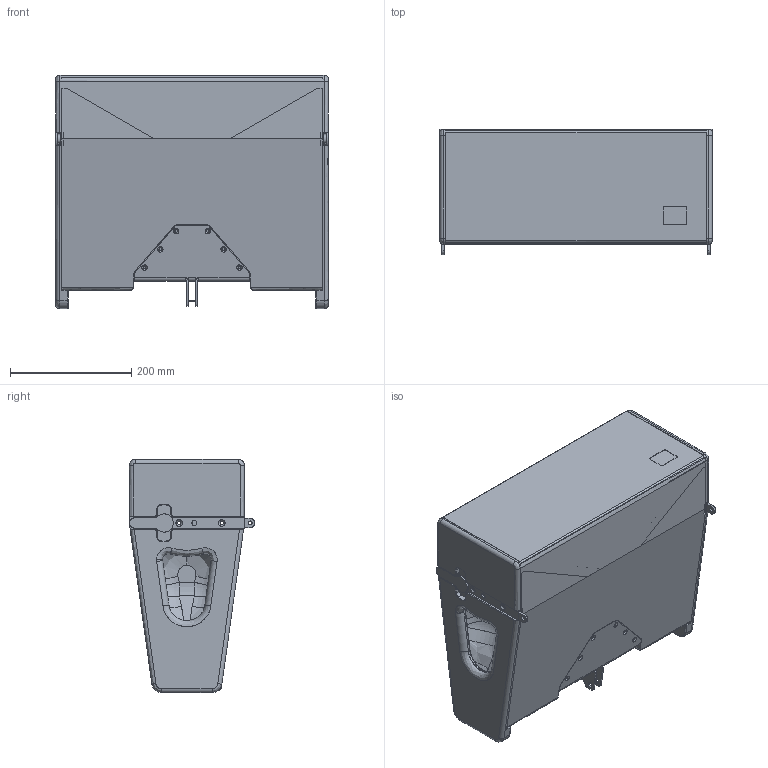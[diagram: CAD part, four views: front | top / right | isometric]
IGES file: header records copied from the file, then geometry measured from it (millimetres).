
Start section: SolidWorks IGES file using analytic representation for surfaces
Global section: file name: C:\Documents and Settings\Administrator\Desktop\Dateien-für-Internet\SEEBURG_Galeo-S.IGS; native system: SolidWorks 2009; preprocessor: SolidWorks 2009; author: Administrator; date: 160225.094454; units: millimetre
Bounding box: 450 x 207 x 385 mm (x, y, z)
Surface area: 1482634.1 mm2 (no closed solid volume)
Topology: 0 solids, 0 shells, 1151 faces, 16062 edges, 16058 vertices
Faces by surface type: bspline 591, revolution 560
